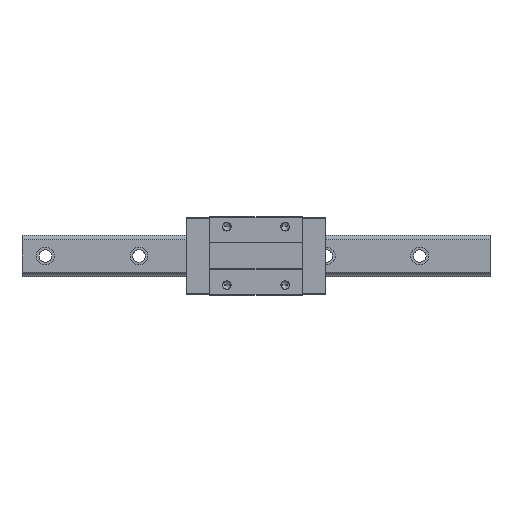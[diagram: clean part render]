
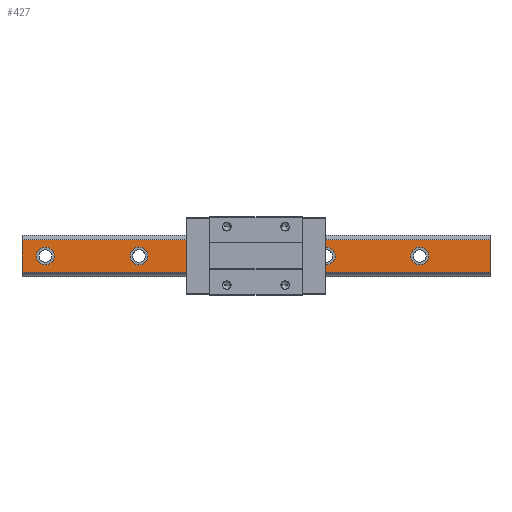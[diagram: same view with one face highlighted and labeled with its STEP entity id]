
A CAD part, top view. The second image highlights one B-rep face of the part: STEP entity #427.
In plain terms, the highlighted planar face has unit normal (0, 0, 1).
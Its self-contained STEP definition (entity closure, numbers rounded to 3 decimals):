
#35 = EDGE_LOOP ( 'NONE', ( #840, #1928 ) ) ;
#55 = VERTEX_POINT ( 'NONE', #3228 ) ;
#98 = FACE_BOUND ( 'NONE', #2971, .T. ) ;
#100 = CARTESIAN_POINT ( 'NONE',  ( -150., 0., 44. ) ) ;
#127 = PLANE ( 'NONE',  #4462 ) ;
#155 = VERTEX_POINT ( 'NONE', #772 ) ;
#221 = EDGE_LOOP ( 'NONE', ( #1076, #5419, #898, #3839 ) ) ;
#232 = AXIS2_PLACEMENT_3D ( 'NONE', #636, #1001, #3069 ) ;
#323 = EDGE_CURVE ( 'NONE', #4254, #5094, #2192, .T. ) ;
#349 = DIRECTION ( 'NONE',  ( 1., 0., 0. ) ) ;
#362 = VECTOR ( 'NONE', #2413, 1000. ) ;
#379 = DIRECTION ( 'NONE',  ( 0., 0., 1. ) ) ;
#396 = CARTESIAN_POINT ( 'NONE',  ( -161.5, 0., 44. ) ) ;
#427 = ADVANCED_FACE ( 'NONE', ( #98, #5151, #1354, #3038, #2627, #3893 ), #127, .F. ) ;
#458 = ORIENTED_EDGE ( 'NONE', *, *, #1498, .F. ) ;
#514 = EDGE_CURVE ( 'NONE', #155, #2101, #4737, .T. ) ;
#519 = CARTESIAN_POINT ( 'NONE',  ( -300., -20.894, 44. ) ) ;
#537 = AXIS2_PLACEMENT_3D ( 'NONE', #1238, #762, #2857 ) ;
#558 = EDGE_CURVE ( 'NONE', #4778, #1803, #658, .T. ) ;
#636 = CARTESIAN_POINT ( 'NONE',  ( -30., 0., 44. ) ) ;
#658 = LINE ( 'NONE', #2336, #3494 ) ;
#703 = LINE ( 'NONE', #1124, #362 ) ;
#762 = DIRECTION ( 'NONE',  ( 0., 0., 1. ) ) ;
#772 = CARTESIAN_POINT ( 'NONE',  ( 101.5, 0., 44. ) ) ;
#781 = EDGE_LOOP ( 'NONE', ( #2560, #2703 ) ) ;
#787 = CARTESIAN_POINT ( 'NONE',  ( -30., 0., 44. ) ) ;
#840 = ORIENTED_EDGE ( 'NONE', *, *, #1012, .F. ) ;
#842 = CARTESIAN_POINT ( 'NONE',  ( 210., 0., 44. ) ) ;
#898 = ORIENTED_EDGE ( 'NONE', *, *, #558, .F. ) ;
#1001 = DIRECTION ( 'NONE',  ( 0., 0., 1. ) ) ;
#1012 = EDGE_CURVE ( 'NONE', #4682, #55, #3322, .T. ) ;
#1030 = DIRECTION ( 'NONE',  ( 1., 0., 0. ) ) ;
#1039 = DIRECTION ( 'NONE',  ( 1., 0., 0. ) ) ;
#1076 = ORIENTED_EDGE ( 'NONE', *, *, #5179, .T. ) ;
#1105 = CARTESIAN_POINT ( 'NONE',  ( 90., 0., 44. ) ) ;
#1124 = CARTESIAN_POINT ( 'NONE',  ( 300., 20.894, 44. ) ) ;
#1143 = CARTESIAN_POINT ( 'NONE',  ( -41.5, 0., 44. ) ) ;
#1146 = EDGE_CURVE ( 'NONE', #55, #4682, #3957, .T. ) ;
#1169 = AXIS2_PLACEMENT_3D ( 'NONE', #1979, #1529, #4546 ) ;
#1233 = VERTEX_POINT ( 'NONE', #1727 ) ;
#1234 = DIRECTION ( 'NONE',  ( 1., 0., 0. ) ) ;
#1238 = CARTESIAN_POINT ( 'NONE',  ( -150., 0., 44. ) ) ;
#1306 = AXIS2_PLACEMENT_3D ( 'NONE', #842, #379, #1234 ) ;
#1354 = FACE_BOUND ( 'NONE', #781, .T. ) ;
#1380 = CARTESIAN_POINT ( 'NONE',  ( 300., -20.894, 44. ) ) ;
#1454 = DIRECTION ( 'NONE',  ( 0., 0., 1. ) ) ;
#1472 = CARTESIAN_POINT ( 'NONE',  ( -270., 0., 44. ) ) ;
#1498 = EDGE_CURVE ( 'NONE', #3530, #4839, #2372, .T. ) ;
#1529 = DIRECTION ( 'NONE',  ( 0., 0., 1. ) ) ;
#1535 = DIRECTION ( 'NONE',  ( 1., 0., 0. ) ) ;
#1594 = CIRCLE ( 'NONE', #3897, 11.5 ) ;
#1623 = EDGE_CURVE ( 'NONE', #2886, #4606, #4460, .T. ) ;
#1707 = DIRECTION ( 'NONE',  ( 0., -1., 0. ) ) ;
#1719 = CARTESIAN_POINT ( 'NONE',  ( -300., -20.894, 44. ) ) ;
#1727 = CARTESIAN_POINT ( 'NONE',  ( -300., 20.894, 44. ) ) ;
#1754 = CARTESIAN_POINT ( 'NONE',  ( 210., 0., 44. ) ) ;
#1772 = DIRECTION ( 'NONE',  ( 0., 0., 1. ) ) ;
#1803 = VERTEX_POINT ( 'NONE', #4999 ) ;
#1815 = CARTESIAN_POINT ( 'NONE',  ( 300., -20.894, 44. ) ) ;
#1824 = CARTESIAN_POINT ( 'NONE',  ( 78.5, 0., 44. ) ) ;
#1928 = ORIENTED_EDGE ( 'NONE', *, *, #1146, .F. ) ;
#1933 = DIRECTION ( 'NONE',  ( 0., -1., 0. ) ) ;
#1979 = CARTESIAN_POINT ( 'NONE',  ( 90., 0., 44. ) ) ;
#2101 = VERTEX_POINT ( 'NONE', #1824 ) ;
#2168 = AXIS2_PLACEMENT_3D ( 'NONE', #1105, #3644, #1535 ) ;
#2192 = CIRCLE ( 'NONE', #4567, 11.5 ) ;
#2209 = ORIENTED_EDGE ( 'NONE', *, *, #514, .F. ) ;
#2240 = CARTESIAN_POINT ( 'NONE',  ( 300., 20.894, 44. ) ) ;
#2241 = DIRECTION ( 'NONE',  ( 1., 0., 0. ) ) ;
#2336 = CARTESIAN_POINT ( 'NONE',  ( 300., -20.894, 44. ) ) ;
#2372 = CIRCLE ( 'NONE', #4941, 11.5 ) ;
#2413 = DIRECTION ( 'NONE',  ( -1., 0., 0. ) ) ;
#2512 = EDGE_CURVE ( 'NONE', #1803, #3093, #3912, .T. ) ;
#2526 = VECTOR ( 'NONE', #1707, 1000. ) ;
#2546 = EDGE_CURVE ( 'NONE', #2101, #155, #3983, .T. ) ;
#2560 = ORIENTED_EDGE ( 'NONE', *, *, #2574, .F. ) ;
#2574 = EDGE_CURVE ( 'NONE', #4606, #2886, #1594, .T. ) ;
#2627 = FACE_BOUND ( 'NONE', #35, .T. ) ;
#2703 = ORIENTED_EDGE ( 'NONE', *, *, #1623, .F. ) ;
#2793 = CARTESIAN_POINT ( 'NONE',  ( -18.5, 0., 44. ) ) ;
#2857 = DIRECTION ( 'NONE',  ( 1., 0., 0. ) ) ;
#2886 = VERTEX_POINT ( 'NONE', #1143 ) ;
#2910 = CIRCLE ( 'NONE', #537, 11.5 ) ;
#2952 = CARTESIAN_POINT ( 'NONE',  ( -138.5, 0., 44. ) ) ;
#2971 = EDGE_LOOP ( 'NONE', ( #3568, #3515 ) ) ;
#2976 = ORIENTED_EDGE ( 'NONE', *, *, #3817, .F. ) ;
#3038 = FACE_BOUND ( 'NONE', #3541, .T. ) ;
#3069 = DIRECTION ( 'NONE',  ( 1., 0., 0. ) ) ;
#3093 = VERTEX_POINT ( 'NONE', #1719 ) ;
#3150 = ORIENTED_EDGE ( 'NONE', *, *, #2546, .F. ) ;
#3228 = CARTESIAN_POINT ( 'NONE',  ( 198.5, 0., 44. ) ) ;
#3322 = CIRCLE ( 'NONE', #1306, 11.5 ) ;
#3494 = VECTOR ( 'NONE', #1933, 1000. ) ;
#3502 = DIRECTION ( 'NONE',  ( -1., 0., 0. ) ) ;
#3515 = ORIENTED_EDGE ( 'NONE', *, *, #4158, .F. ) ;
#3530 = VERTEX_POINT ( 'NONE', #2952 ) ;
#3541 = EDGE_LOOP ( 'NONE', ( #2209, #3150 ) ) ;
#3568 = ORIENTED_EDGE ( 'NONE', *, *, #323, .F. ) ;
#3627 = CARTESIAN_POINT ( 'NONE',  ( 221.5, 0., 44. ) ) ;
#3644 = DIRECTION ( 'NONE',  ( 0., 0., 1. ) ) ;
#3817 = EDGE_CURVE ( 'NONE', #4839, #3530, #2910, .T. ) ;
#3839 = ORIENTED_EDGE ( 'NONE', *, *, #4290, .T. ) ;
#3893 = FACE_OUTER_BOUND ( 'NONE', #221, .T. ) ;
#3897 = AXIS2_PLACEMENT_3D ( 'NONE', #787, #4578, #349 ) ;
#3912 = LINE ( 'NONE', #1815, #5145 ) ;
#3957 = CIRCLE ( 'NONE', #5372, 11.5 ) ;
#3983 = CIRCLE ( 'NONE', #1169, 11.5 ) ;
#4158 = EDGE_CURVE ( 'NONE', #5094, #4254, #4867, .T. ) ;
#4254 = VERTEX_POINT ( 'NONE', #4908 ) ;
#4290 = EDGE_CURVE ( 'NONE', #4778, #1233, #703, .T. ) ;
#4311 = CARTESIAN_POINT ( 'NONE',  ( -270., 0., 44. ) ) ;
#4340 = DIRECTION ( 'NONE',  ( 0., 0., -1. ) ) ;
#4460 = CIRCLE ( 'NONE', #232, 11.5 ) ;
#4462 = AXIS2_PLACEMENT_3D ( 'NONE', #1380, #4340, #4973 ) ;
#4546 = DIRECTION ( 'NONE',  ( 1., 0., 0. ) ) ;
#4567 = AXIS2_PLACEMENT_3D ( 'NONE', #4311, #1454, #2241 ) ;
#4578 = DIRECTION ( 'NONE',  ( 0., 0., 1. ) ) ;
#4606 = VERTEX_POINT ( 'NONE', #2793 ) ;
#4682 = VERTEX_POINT ( 'NONE', #3627 ) ;
#4694 = LINE ( 'NONE', #519, #2526 ) ;
#4718 = DIRECTION ( 'NONE',  ( 0., 0., 1. ) ) ;
#4737 = CIRCLE ( 'NONE', #2168, 11.5 ) ;
#4778 = VERTEX_POINT ( 'NONE', #2240 ) ;
#4822 = EDGE_LOOP ( 'NONE', ( #458, #2976 ) ) ;
#4831 = DIRECTION ( 'NONE',  ( 0., 0., 1. ) ) ;
#4839 = VERTEX_POINT ( 'NONE', #396 ) ;
#4867 = CIRCLE ( 'NONE', #5304, 11.5 ) ;
#4908 = CARTESIAN_POINT ( 'NONE',  ( -258.5, 0., 44. ) ) ;
#4941 = AXIS2_PLACEMENT_3D ( 'NONE', #100, #1772, #5153 ) ;
#4973 = DIRECTION ( 'NONE',  ( 0., -1., 0. ) ) ;
#4999 = CARTESIAN_POINT ( 'NONE',  ( 300., -20.894, 44. ) ) ;
#5094 = VERTEX_POINT ( 'NONE', #5355 ) ;
#5145 = VECTOR ( 'NONE', #3502, 1000. ) ;
#5151 = FACE_BOUND ( 'NONE', #4822, .T. ) ;
#5153 = DIRECTION ( 'NONE',  ( 1., 0., 0. ) ) ;
#5179 = EDGE_CURVE ( 'NONE', #1233, #3093, #4694, .T. ) ;
#5304 = AXIS2_PLACEMENT_3D ( 'NONE', #1472, #4831, #1039 ) ;
#5355 = CARTESIAN_POINT ( 'NONE',  ( -281.5, 0., 44. ) ) ;
#5372 = AXIS2_PLACEMENT_3D ( 'NONE', #1754, #4718, #1030 ) ;
#5419 = ORIENTED_EDGE ( 'NONE', *, *, #2512, .F. ) ;
